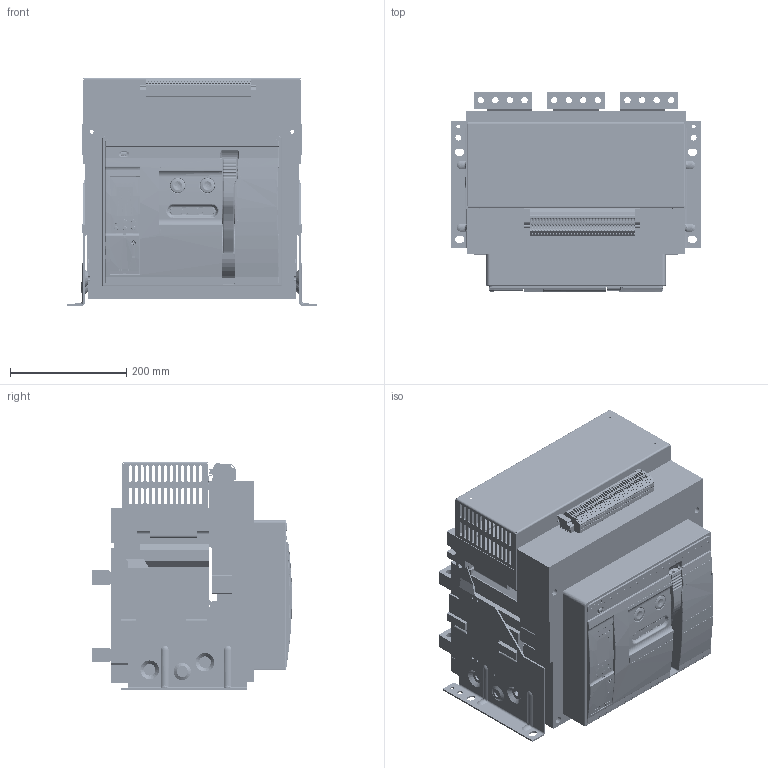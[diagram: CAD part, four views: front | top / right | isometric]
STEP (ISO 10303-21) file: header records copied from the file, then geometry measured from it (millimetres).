
FILE_DESCRIPTION(/* description */ (''),/* implementation_level */ '2;1');
FILE_NAME(/* name */ 'C:/Users/carlos.gonzalez/Documents/ADRIAN_TEMP_DRAWING/Ex9A32-3P-3200-F_PB_Drawing.step',/* time_stamp */ '2021-10-14T13:02:40+02:00',/* author */ (''),/* organization */ (''),/* preprocessor_version */ 'ST-DEVELOPER v18.1',/* originating_system */ 'Autodesk Translation Framework v10.10.0.1391',/* authorisation */ '');
FILE_SCHEMA (('AUTOMOTIVE_DESIGN { 1 0 10303 214 3 1 1 }'));
Products named in the file (39): Ex9A32-3P-3200-F; Ex9A32_3P_3200_F; Auxiliary terminals; JIEXIANDUANZI-35_ASM; 8260A0306112; 3044526_UT25_TWIN_BU; 0800886_E-NS-35-N; 081808_UC_TM_2_5; Internal parts; 8060A0306109; 8060A0306108; 4000-JIZUO-3P; 4000-DIBAN-3P; 8300A0306007; 8ZTD_123_167_2; 8ZTD_123_166_2; Cover; 5300A1526114_ASM; 8300A0101127_34; 8235A0101009_2; 8253A0101002_7; 8320A0101121-0814_3; 8860A0724001_4; 8ZTD_282_1203_AF1_6; 8ZTD_282_1203_AF2_6; 8253A0101107-1_5; 8253A0101106-1_5; 8860A1424194-1_1; 8282A0820014; 8253A0101010; 8253A0101108-1; Main terminals; 8580A0412010; 8580A0412011; Smart unit; 8320A0101004; 5043A0101001; 8005A0101008; 8860A1424009
Assembly tree (144 placements, depth 5):
  Ex9A32-3P-3200-F
    Ex9A32_3P_3200_F
      Auxiliary terminals
        JIEXIANDUANZI-35_ASM
          8260A0306112
          3044526_UT25_TWIN_BU  x35
          0800886_E-NS-35-N  x2
          081808_UC_TM_2_5  x68
      Internal parts
        8060A0306109
        8060A0306108
        4000-JIZUO-3P
        4000-DIBAN-3P
        8300A0306007
        8ZTD_123_167_2
        8ZTD_123_166_2
      Cover
        5300A1526114_ASM
          8300A0101127_34
          8235A0101009_2
          8253A0101002_7
          8320A0101121-0814_3
          8860A0724001_4
          8ZTD_282_1203_AF1_6
          8ZTD_282_1203_AF2_6
          8253A0101107-1_5
          8253A0101106-1_5
          8860A1424194-1_1
          8282A0820014
        8253A0101010
        8253A0101108-1
      Main terminals
        8580A0412010  x2
        8580A0412011  x4
      Smart unit
        8320A0101004
        5043A0101001
        8005A0101008
        8860A1424009
Bounding box: 430 x 343.49 x 392 mm (x, y, z)
Volume: 19479076.1 mm3; surface area: 2423261.2 mm2
Topology: 136 solids, 160 shells, 10621 faces, 29881 edges, 19681 vertices
Faces by surface type: plane 6553, cylinder 3375, bspline 332, torus 236, sphere 72, cone 53
Full cylindrical faces by diameter (mm): 2 x7, 2.1 x2, 2.5 x3, 2.6 x2, 3 x11, 3.5 x11, 4 x12, 4.2 x4, 4.3 x1, 4.5 x3, 5 x16, 5.008 x1, 5.5 x4, 6 x5, 6.1 x1, 6.2 x4, 6.5 x3, 7 x6, 8 x4, 8.2 x4, 8.3 x2, 8.5 x27, 9 x2, 10 x14, 11 x24, 12 x5, 12.5 x1, 14 x1, 15 x1, 16 x1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
Entity records: 201740 total; most frequent: CARTESIAN_POINT 81268, ORIENTED_EDGE 25254, DIRECTION 23642, EDGE_CURVE 12652, LINE 8644, VECTOR 8644, VERTEX_POINT 8217, AXIS2_PLACEMENT_3D 7499
